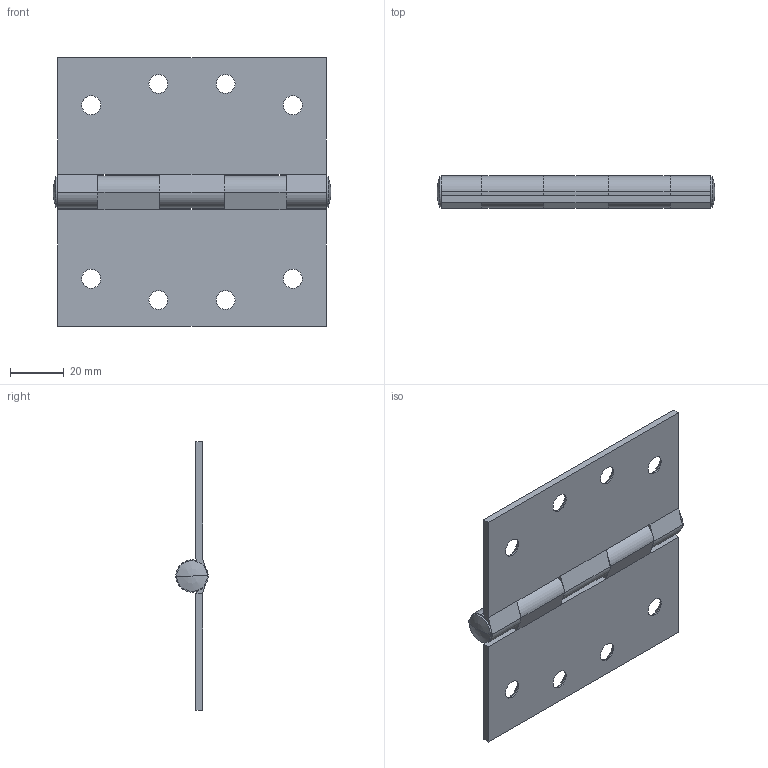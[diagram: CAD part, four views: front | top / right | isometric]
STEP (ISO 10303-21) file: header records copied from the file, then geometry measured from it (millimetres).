
FILE_DESCRIPTION (( 'STEP AP203' ), '1' );
FILE_NAME ('81249_12.STEP', '2020-05-27T05:36:35', ( '' ), ( '' ), 'SwSTEP 2.0', 'SolidWorks 2016', '' );
FILE_SCHEMA (( 'CONFIG_CONTROL_DESIGN' ));
Length unit declared in the file: millimetre
Products named in the file (4): 81249_Cover_2; Pin; 81249; 81249_12
Assembly tree (3 placements, depth 2):
  81249_12
    81249_Cover_2
    81249
    Pin
Bounding box: 103.34 x 12 x 100 mm (x, y, z)
Volume: 32119 mm3; surface area: 27867.8 mm2
Topology: 3 solids, 3 shells, 112 faces, 286 edges, 178 vertices
Faces by surface type: cylinder 52, plane 40, cone 16, bspline 4
Entity records: 3844 total; most frequent: DIRECTION 630, CARTESIAN_POINT 630, ORIENTED_EDGE 564, EDGE_CURVE 282, AXIS2_PLACEMENT_3D 238, VERTEX_POINT 178, LINE 154, VECTOR 154
